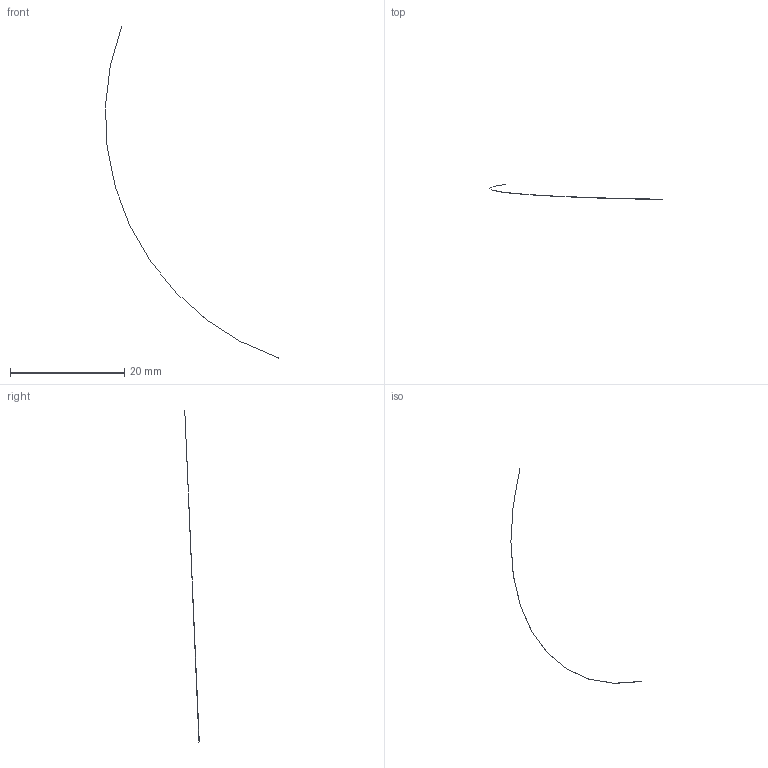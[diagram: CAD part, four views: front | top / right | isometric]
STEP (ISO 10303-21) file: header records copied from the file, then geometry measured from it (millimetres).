
FILE_DESCRIPTION(/* description */ (''),/* implementation_level */ '2;1');
FILE_NAME(/* name */ 'H:\Geberit-Teile\Export\Silent\stp\393563.stp',/* time_stamp */ '2017-03-30T11:38:12+02:00',/* author */ ('seihe2'),/* organization */ (''),/* preprocessor_version */ 'ST-DEVELOPER v15.2',/* originating_system */ 'Autodesk Inventor 2014',/* authorisation */ '');
FILE_SCHEMA (('AUTOMOTIVE_DESIGN { 1 0 10303 214 3 1 1 }'));
Length unit declared in the file: millimetre
Products named in the file (1): 393563
Bounding box: 30.3 x 2.54 x 58.1 mm (x, y, z)
Volume: 0 mm3; surface area: 3.7 mm2
Topology: 1 solids, 1 shells, 2 faces, 3 edges, 3 vertices
Faces by surface type: bspline 2
Entity records: 20253 total; most frequent: CARTESIAN_POINT 13015, ORIENTED_EDGE 1752, DIRECTION 1044, EDGE_CURVE 876, VERTEX_POINT 607, AXIS2_PLACEMENT_3D 476, B_SPLINE_CURVE_WITH_KNOTS 415, EDGE_LOOP 361
